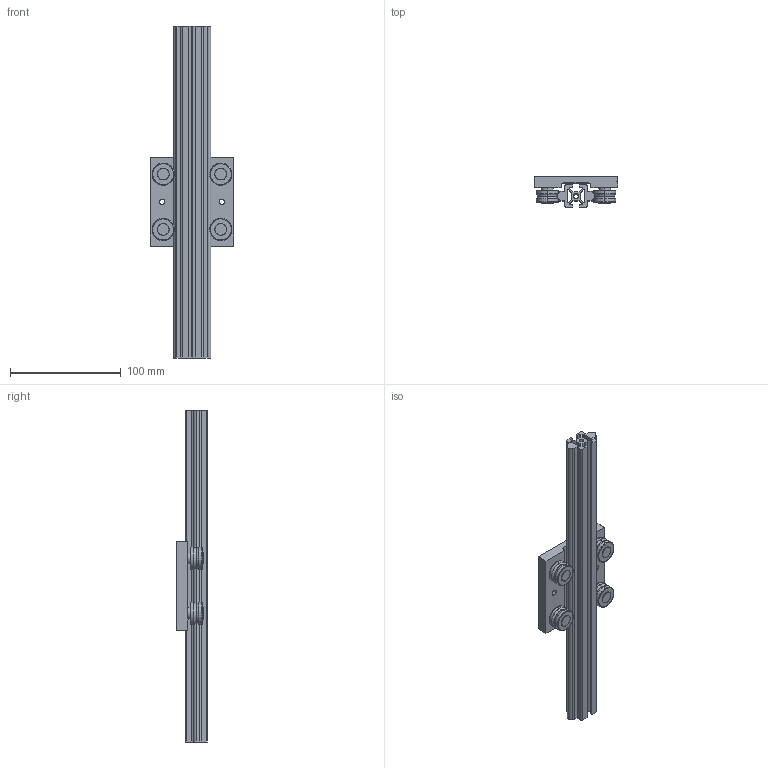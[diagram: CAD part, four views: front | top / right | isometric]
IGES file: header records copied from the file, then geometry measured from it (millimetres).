
Start section: SolidWorks IGES file using analytic representation for surfaces
Bounding box: 75 x 28 x 300 mm (x, y, z)
Surface area: 87066.3 mm2 (no closed solid volume)
Topology: 0 solids, 0 shells, 310 faces, 4062 edges, 4062 vertices
Faces by surface type: bspline 159, revolution 151
